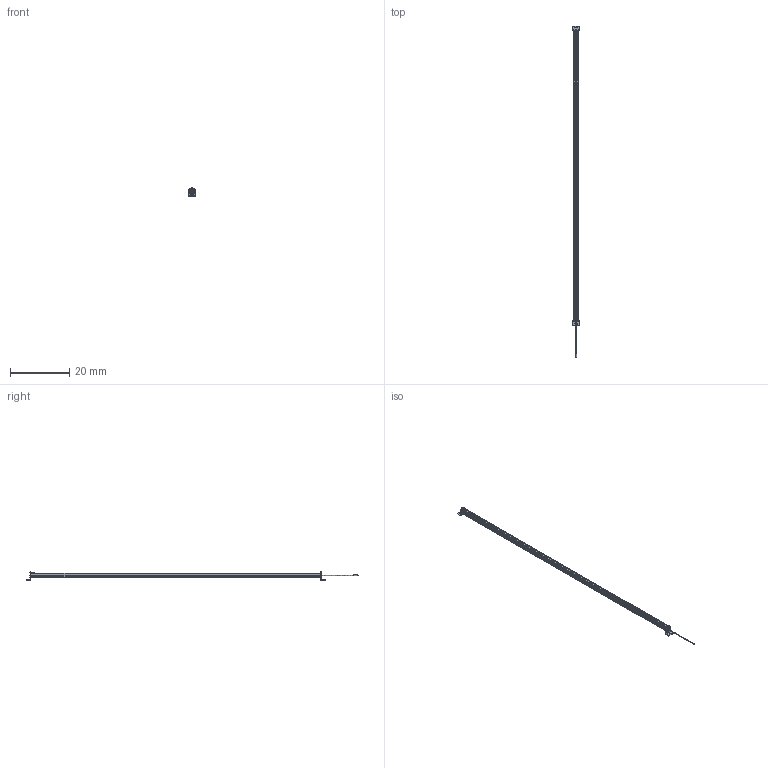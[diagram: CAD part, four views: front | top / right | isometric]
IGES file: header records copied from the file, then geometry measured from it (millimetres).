
Start section:  Autodesk DirectConnect version 7.0.27.0 ---- IGES version 5.3
Global section: file name: C:\ACADFILES\SS_PYLONS\CUSTOMER_FILES\SS-96-PYLON_3D_SMB.iges; native system: Autodesk DirectConnect 7.0.27.0; preprocessor: 7.0.27.0; author: ENGINEERMAIN; organization: Unknown; date: 20150810.130749; units: millimetre
Bounding box: 2.26 x 112.01 x 2.75 mm (x, y, z)
Surface area: 1466.1 mm2 (no closed solid volume)
Topology: 0 solids, 0 shells, 754 faces, 3833 edges, 3829 vertices
Faces by surface type: bspline 754
